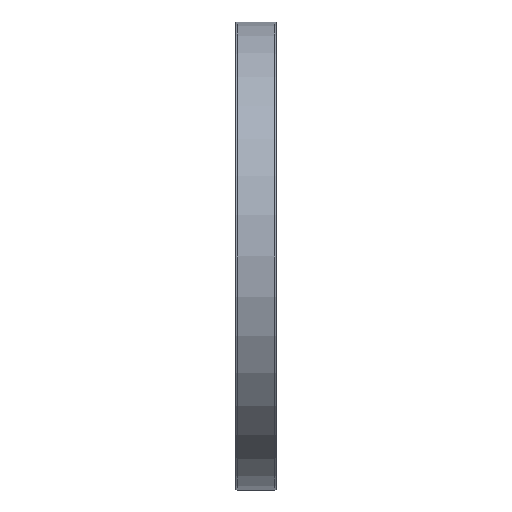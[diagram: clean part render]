
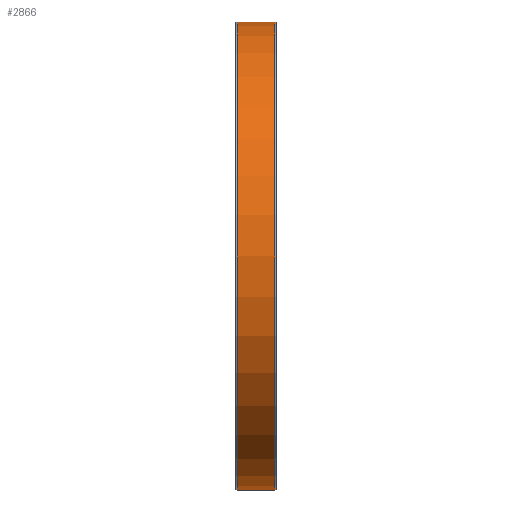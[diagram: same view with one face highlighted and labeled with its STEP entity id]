
A CAD part, left-side view. The second image highlights one B-rep face of the part: STEP entity #2866.
In plain terms, the highlighted cylindrical face has radius 81.276 mm (diameter 162.552 mm), a partial arc.
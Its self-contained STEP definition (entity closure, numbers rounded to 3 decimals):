
#2866 = ADVANCED_FACE ( 'NONE', ( #9804 ), #6251, .T. ) ;
#3233 = CARTESIAN_POINT ( 'NONE',  ( 0., 0.5, 0. ) ) ;
#3526 = CARTESIAN_POINT ( 'NONE',  ( 0., 0., 81.276 ) ) ;
#3533 = CARTESIAN_POINT ( 'NONE',  ( 0., 0.5, -81.276 ) ) ;
#3596 = DIRECTION ( 'NONE',  ( 0., -1., 0. ) ) ;
#3891 = VECTOR ( 'NONE', #16235, 1000. ) ;
#4335 = ORIENTED_EDGE ( 'NONE', *, *, #9537, .F. ) ;
#4480 = EDGE_CURVE ( 'NONE', #10929, #14940, #19561, .T. ) ;
#5935 = ORIENTED_EDGE ( 'NONE', *, *, #9931, .T. ) ;
#6251 = CYLINDRICAL_SURFACE ( 'NONE', #23472, 81.276 ) ;
#7026 = DIRECTION ( 'NONE',  ( 0., -1., 0. ) ) ;
#7882 = CARTESIAN_POINT ( 'NONE',  ( 0., 13.5, 0. ) ) ;
#9008 = CARTESIAN_POINT ( 'NONE',  ( 0., 0., -81.276 ) ) ;
#9164 = ORIENTED_EDGE ( 'NONE', *, *, #23440, .T. ) ;
#9252 = CARTESIAN_POINT ( 'NONE',  ( 0., 13.5, 81.276 ) ) ;
#9537 = EDGE_CURVE ( 'NONE', #19817, #10929, #12766, .T. ) ;
#9804 = FACE_OUTER_BOUND ( 'NONE', #10932, .T. ) ;
#9931 = EDGE_CURVE ( 'NONE', #19817, #14836, #10315, .T. ) ;
#10315 = CIRCLE ( 'NONE', #23200, 81.276 ) ;
#10816 = DIRECTION ( 'NONE',  ( 0., 0., -1. ) ) ;
#10929 = VERTEX_POINT ( 'NONE', #22695 ) ;
#10932 = EDGE_LOOP ( 'NONE', ( #4335, #5935, #9164, #20551 ) ) ;
#12209 = VECTOR ( 'NONE', #23328, 1000. ) ;
#12766 = LINE ( 'NONE', #3526, #12209 ) ;
#14491 = CARTESIAN_POINT ( 'NONE',  ( 0., 0., 0. ) ) ;
#14836 = VERTEX_POINT ( 'NONE', #19052 ) ;
#14940 = VERTEX_POINT ( 'NONE', #3533 ) ;
#15676 = DIRECTION ( 'NONE',  ( 0., 0., -1. ) ) ;
#16235 = DIRECTION ( 'NONE',  ( 0., -1., 0. ) ) ;
#17792 = DIRECTION ( 'NONE',  ( 0., 0., -1. ) ) ;
#19052 = CARTESIAN_POINT ( 'NONE',  ( 0., 13.5, -81.276 ) ) ;
#19105 = DIRECTION ( 'NONE',  ( 0., -1., 0. ) ) ;
#19186 = AXIS2_PLACEMENT_3D ( 'NONE', #3233, #7026, #17792 ) ;
#19561 = CIRCLE ( 'NONE', #19186, 81.276 ) ;
#19817 = VERTEX_POINT ( 'NONE', #9252 ) ;
#20551 = ORIENTED_EDGE ( 'NONE', *, *, #4480, .F. ) ;
#21799 = LINE ( 'NONE', #9008, #3891 ) ;
#22695 = CARTESIAN_POINT ( 'NONE',  ( 0., 0.5, 81.276 ) ) ;
#23200 = AXIS2_PLACEMENT_3D ( 'NONE', #7882, #19105, #15676 ) ;
#23328 = DIRECTION ( 'NONE',  ( 0., -1., 0. ) ) ;
#23440 = EDGE_CURVE ( 'NONE', #14836, #14940, #21799, .T. ) ;
#23472 = AXIS2_PLACEMENT_3D ( 'NONE', #14491, #3596, #10816 ) ;
